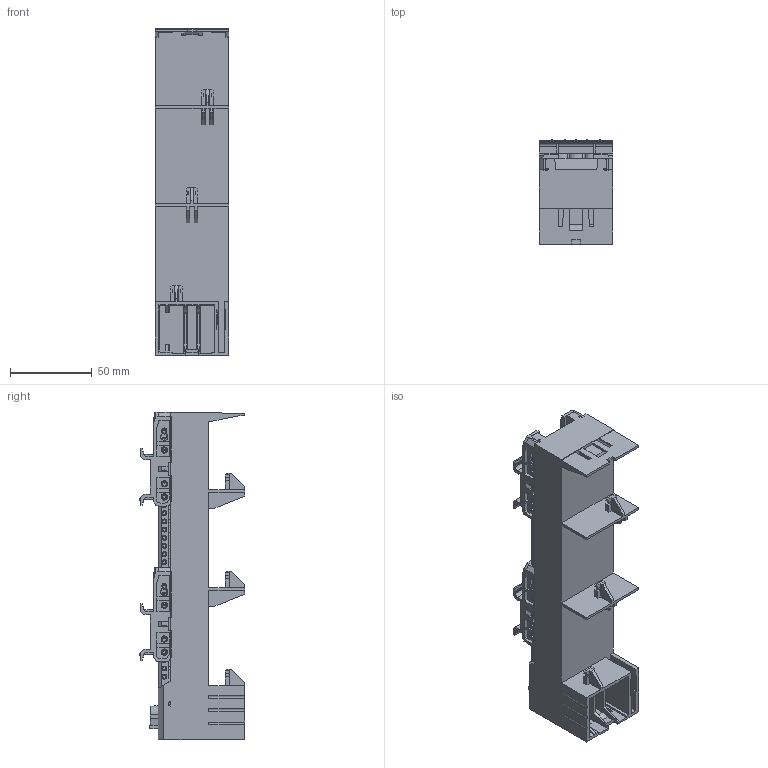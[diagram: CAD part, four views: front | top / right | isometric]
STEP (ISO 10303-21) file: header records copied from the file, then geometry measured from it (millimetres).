
FILE_DESCRIPTION (( 'STEP AP203' ), '1' );
FILE_NAME ('55351.STEP', '2021-08-17T00:50:09', ( '' ), ( '' ), 'SwSTEP 2.0', 'SolidWorks 2017', '' );
FILE_SCHEMA (( 'CONFIG_CONTROL_DESIGN' ));
Products named in the file (2): 55351
Bounding box: 45.01 x 64.5 x 200.7 mm (x, y, z)
Volume: 267760.7 mm3; surface area: 82667.1 mm2
Topology: 3 solids, 11 shells, 2142 faces, 6024 edges, 4047 vertices
Faces by surface type: plane 1349, cylinder 609, cone 166, bspline 18
Full cylindrical faces by diameter (mm): 1.988 x130, 2.779 x8, 2.882 x12, 2.982 x130, 4.864 x8, 5.169 x2
Entity records: 116543 total; most frequent: CARTESIAN_POINT 66031, ORIENTED_EDGE 10882, DIRECTION 8757, EDGE_CURVE 5441, VERTEX_POINT 3896, VECTOR 3307, LINE 3307, EDGE_LOOP 2827
